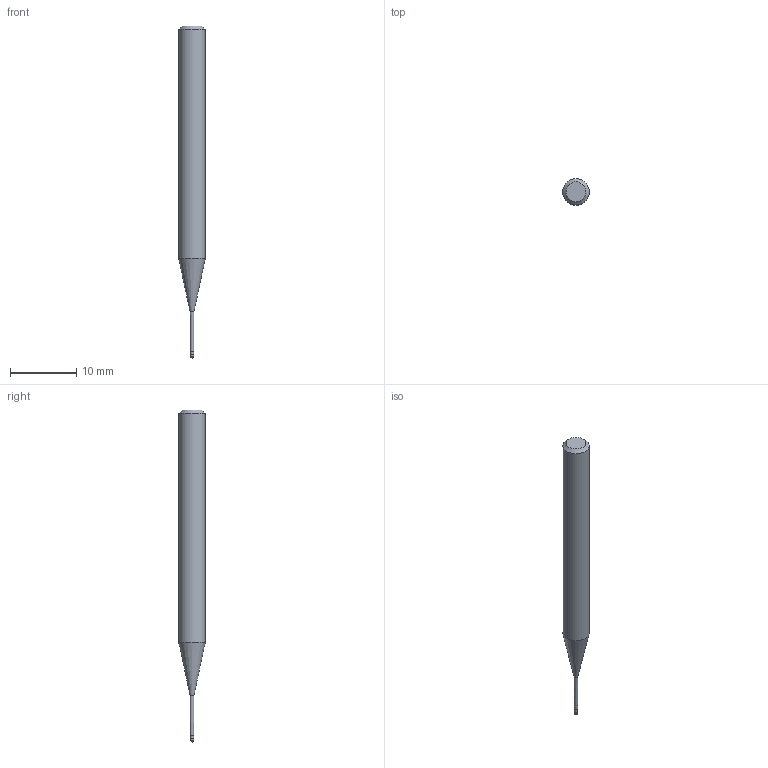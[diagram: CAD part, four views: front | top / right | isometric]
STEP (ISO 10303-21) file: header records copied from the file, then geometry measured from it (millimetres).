
FILE_DESCRIPTION((''),'2;1');
FILE_NAME('C:\Users\nsx150\AppData\Local\Temp\Mastercam 2021\SNAKH10GOD\TEMP.step','2021-10-21T13:31:10',(''),(''),'STEP Write','Mastercam 2021 ... CNC Software, Inc.','');
FILE_SCHEMA(('AUTOMOTIVE_DESIGN'));
Length unit declared in the file: millimetre
Products named in the file (1): None
Bounding box: 4 x 4 x 50 mm (x, y, z)
Volume: 479.3 mm3; surface area: 519.6 mm2
Topology: 2 solids, 2 shells, 10 faces, 16 edges, 9 vertices
Faces by surface type: plane 3, cylinder 3, cone 3, sphere 1
Full cylindrical faces by diameter (mm): 0.485 x1, 0.5 x1, 4 x1
Entity records: 232 total; most frequent: DIRECTION 40, CARTESIAN_POINT 28, AXIS2_PLACEMENT_3D 20, ORIENTED_EDGE 16, EDGE_LOOP 16, STYLED_ITEM 13, ADVANCED_FACE 10, FACE_BOUND 9
